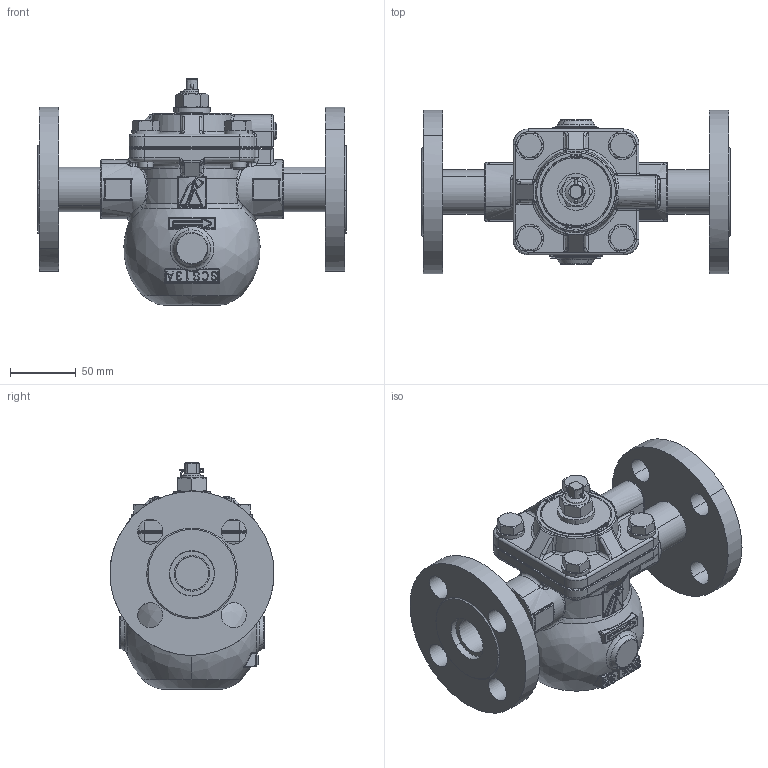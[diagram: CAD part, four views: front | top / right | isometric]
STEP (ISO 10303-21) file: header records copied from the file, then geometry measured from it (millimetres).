
FILE_DESCRIPTION((''),'2;1');
FILE_NAME('','2020-10-13T11:41:19',(''),(''),'','CADfix','');
FILE_SCHEMA(('AUTOMOTIVE_DESIGN { 1 0 10303 214 1 1 1 1 }'));
Length unit declared in the file: millimetre
Products named in the file (15): 本体 25A SW 埋め; 　コック 埋め; ふた 埋め; SOP 20K 25A; CP_SUS＿'_SUS304TP 25AxSch40x52.6_5126; CP_'_JIS B 1180 呼び径六角ボルト'_17166; CP_'_JIS B 1180 呼び径六角ボルト'_17168; SSLW12; テーパプラグMSWTS2; 3D　TSF-10　割りピン; 3D　TSF-10　銘板文字; 3D　TSF-10　六角ナット; 3D　TSF-10　銘板; 3D　TSF-10　カラー; TSF-10SF JIS20K 25A_38
Assembly tree (21 placements, depth 2):
  TSF-10SF JIS20K 25A_38
    本体 25A SW 埋め
    　コック 埋め
    ふた 埋め
    SOP 20K 25A  x2
    CP_SUS＿'_SUS304TP 25AxSch40x52.6_5126  x2
    CP_'_JIS B 1180 呼び径六角ボルト'_17166  x3
    CP_'_JIS B 1180 呼び径六角ボルト'_17168
    SSLW12  x4
    テーパプラグMSWTS2
    3D　TSF-10　割りピン
    3D　TSF-10　銘板文字
    3D　TSF-10　六角ナット
    3D　TSF-10　銘板
    3D　TSF-10　カラー
Bounding box: 235 x 125 x 173 mm (x, y, z)
Volume: 1394806.5 mm3; surface area: 203656.6 mm2
Topology: 21 solids, 21 shells, 1629 faces, 4544 edges, 2944 vertices
Faces by surface type: bspline 1629
Entity records: 76778 total; most frequent: CARTESIAN_POINT 46699, ORIENTED_EDGE 8378, STYLED_ITEM 5063, EDGE_CURVE 4189, VERTEX_POINT 2686, B_SPLINE_CURVE_WITH_KNOTS 1973, QUASI_UNIFORM_CURVE 1858, EDGE_LOOP 1609
